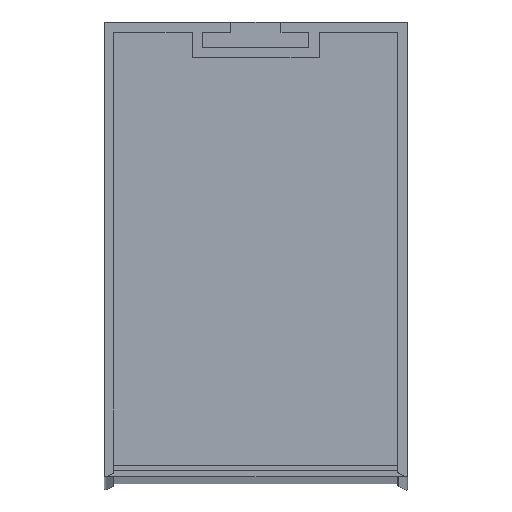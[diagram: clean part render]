
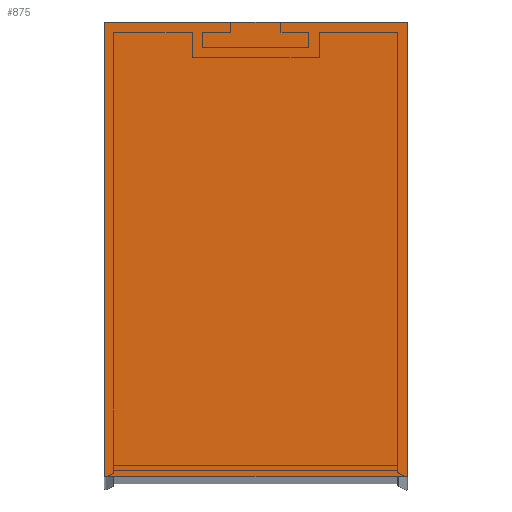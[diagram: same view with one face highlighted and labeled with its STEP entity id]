
A CAD part, top view. The second image highlights one B-rep face of the part: STEP entity #875.
In plain terms, the highlighted planar face has unit normal (0, 0, 1).
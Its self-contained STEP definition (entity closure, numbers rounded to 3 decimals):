
#70=PLANE('',#976);
#113=FACE_OUTER_BOUND('',#159,.T.);
#159=EDGE_LOOP('',(#787,#788,#789,#790,#791,#792,#793,#794));
#253=LINE('',#1453,#353);
#256=LINE('',#1459,#356);
#257=LINE('',#1463,#357);
#258=LINE('',#1467,#358);
#353=VECTOR('',#1192,10.);
#356=VECTOR('',#1197,10.);
#357=VECTOR('',#1200,10.);
#358=VECTOR('',#1203,10.);
#379=CIRCLE('',#973,0.2);
#381=CIRCLE('',#977,0.2);
#382=CIRCLE('',#978,0.2);
#383=CIRCLE('',#979,0.2);
#451=VERTEX_POINT('',#1443);
#452=VERTEX_POINT('',#1444);
#455=VERTEX_POINT('',#1452);
#457=VERTEX_POINT('',#1458);
#458=VERTEX_POINT('',#1460);
#459=VERTEX_POINT('',#1462);
#460=VERTEX_POINT('',#1464);
#461=VERTEX_POINT('',#1466);
#563=EDGE_CURVE('',#451,#452,#379,.T.);
#567=EDGE_CURVE('',#455,#452,#253,.T.);
#570=EDGE_CURVE('',#451,#457,#256,.T.);
#571=EDGE_CURVE('',#458,#457,#381,.T.);
#572=EDGE_CURVE('',#458,#459,#257,.T.);
#573=EDGE_CURVE('',#460,#459,#382,.T.);
#574=EDGE_CURVE('',#460,#461,#258,.T.);
#575=EDGE_CURVE('',#455,#461,#383,.T.);
#787=ORIENTED_EDGE('',*,*,#563,.F.);
#788=ORIENTED_EDGE('',*,*,#570,.T.);
#789=ORIENTED_EDGE('',*,*,#571,.F.);
#790=ORIENTED_EDGE('',*,*,#572,.T.);
#791=ORIENTED_EDGE('',*,*,#573,.F.);
#792=ORIENTED_EDGE('',*,*,#574,.T.);
#793=ORIENTED_EDGE('',*,*,#575,.F.);
#794=ORIENTED_EDGE('',*,*,#567,.T.);
#875=ADVANCED_FACE('',(#113),#70,.T.);
#973=AXIS2_PLACEMENT_3D('',#1445,#1184,#1185);
#976=AXIS2_PLACEMENT_3D('',#1457,#1195,#1196);
#977=AXIS2_PLACEMENT_3D('',#1461,#1198,#1199);
#978=AXIS2_PLACEMENT_3D('',#1465,#1201,#1202);
#979=AXIS2_PLACEMENT_3D('',#1468,#1204,#1205);
#1184=DIRECTION('center_axis',(0.,0.,-1.));
#1185=DIRECTION('ref_axis',(-0.707,0.707,0.));
#1192=DIRECTION('',(-1.,0.,0.));
#1195=DIRECTION('center_axis',(0.,0.,1.));
#1196=DIRECTION('ref_axis',(1.,0.,0.));
#1197=DIRECTION('',(0.,-1.,0.));
#1198=DIRECTION('center_axis',(0.,0.,-1.));
#1199=DIRECTION('ref_axis',(-0.707,-0.707,0.));
#1200=DIRECTION('',(1.,0.,0.));
#1201=DIRECTION('center_axis',(0.,0.,-1.));
#1202=DIRECTION('ref_axis',(0.707,-0.707,0.));
#1203=DIRECTION('',(0.,1.,0.));
#1204=DIRECTION('center_axis',(0.,0.,-1.));
#1205=DIRECTION('ref_axis',(0.707,0.707,0.));
#1443=CARTESIAN_POINT('',(21.012,-179.743,1001.));
#1444=CARTESIAN_POINT('',(21.212,-179.543,1001.));
#1445=CARTESIAN_POINT('Origin',(21.212,-179.743,1001.));
#1452=CARTESIAN_POINT('',(61.3,-179.543,1001.));
#1453=CARTESIAN_POINT('',(21.012,-179.543,1001.));
#1457=CARTESIAN_POINT('Origin',(41.256,-209.87,1001.));
#1458=CARTESIAN_POINT('',(21.012,-239.997,1001.));
#1459=CARTESIAN_POINT('',(21.012,-240.197,1001.));
#1460=CARTESIAN_POINT('',(21.212,-240.197,1001.));
#1461=CARTESIAN_POINT('Origin',(21.212,-239.997,1001.));
#1462=CARTESIAN_POINT('',(61.3,-240.197,1001.));
#1463=CARTESIAN_POINT('',(61.5,-240.197,1001.));
#1464=CARTESIAN_POINT('',(61.5,-239.997,1001.));
#1465=CARTESIAN_POINT('Origin',(61.3,-239.997,1001.));
#1466=CARTESIAN_POINT('',(61.5,-179.743,1001.));
#1467=CARTESIAN_POINT('',(61.5,-179.543,1001.));
#1468=CARTESIAN_POINT('Origin',(61.3,-179.743,1001.));
